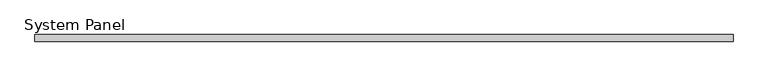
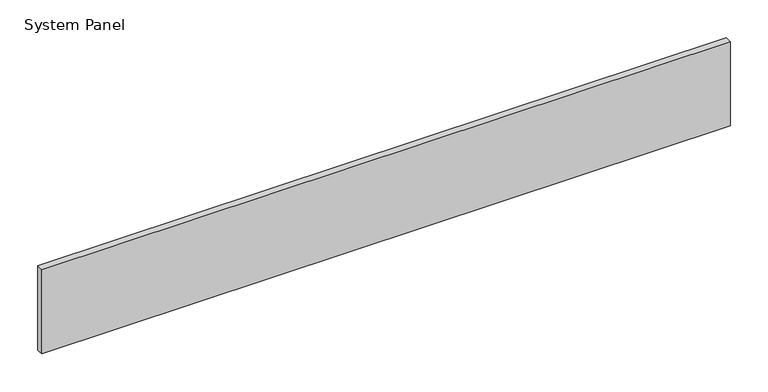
"""IFC4 building model written with IfcOpenShell, lengths in millimetres: plate geometry, System Panel : VACÍO."""

from ifc_helpers import new_model, si_unit, origin, origin_with_axes, place, context, project, spatial, polyline, outline, extrude, source, transform, mapped, element, save


def system_panel_d7da2c0c(model_context):
    return source(origin(), model_context, "Body", "SweptSolid", [
        extrude(outline(polyline([(525.1249907, -5.0), (-525.1249907, -5.0), (-525.1249907, 5.0), (525.1249907, 5.0), (525.1249907, -5.0)])), origin_with_axes(), (0.0, 0.0, 1.0), 136.0),
    ])


if __name__ == "__main__":
    model = new_model("IFC4")
    model_context = context("Model", 3, world=origin())
    ifc_project = project(units=[si_unit("LENGTHUNIT", "METRE", prefix="MILLI")], contexts=[model_context])
    site = spatial("IfcSite", under=ifc_project)
    building = spatial("IfcBuilding", under=site)
    placement = place(None, origin())
    system_panel_shape = system_panel_d7da2c0c(model_context)
    element("IfcPlate", 1, ObjectType="System Panel : VACÍO", at=placement, inside=building, context=model_context, shape_type="MappedRepresentation", body=[
        mapped(system_panel_shape, transform((0.0, 0.0, 0.0), x_axis=(1.0, 0.0, 0.0), y_axis=(0.0, 1.0, 0.0), z_axis=(0.0, 0.0, 1.0))),
    ])
    save(model, "model.ifc")
